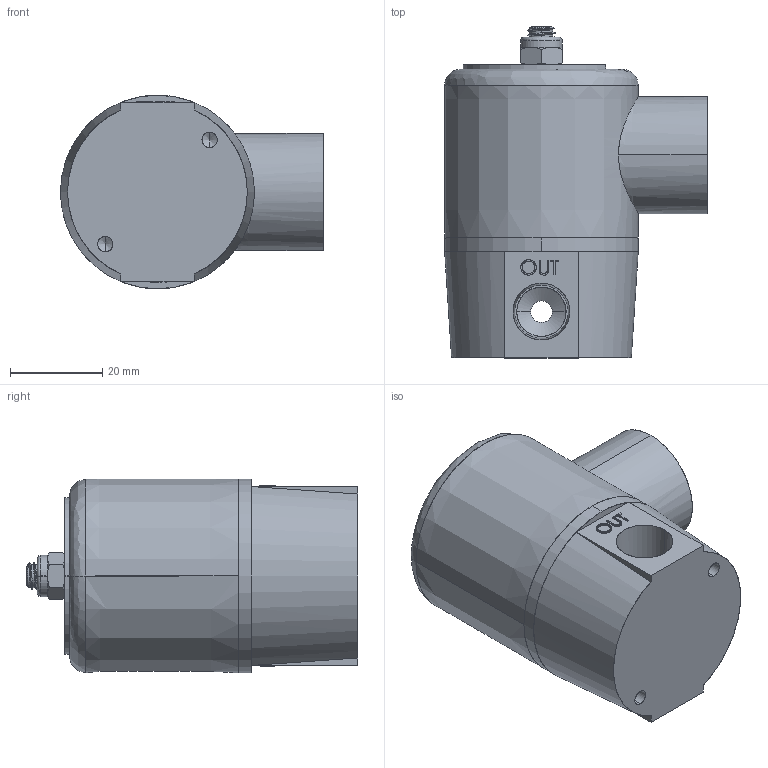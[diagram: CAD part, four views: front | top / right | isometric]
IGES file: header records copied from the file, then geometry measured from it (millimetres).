
Start section: SolidWorks IGES file using analytic representation for surfaces
Global section: file name: C:\Users\Toshiba\Desktop\SS2200-02-#.IGS; native system: SolidWorks 2014; preprocessor: SolidWorks 2014; author: Toshiba; date: 160126.085047; units: millimetre
Bounding box: 57 x 72 x 42 mm (x, y, z)
Surface area: 26149.4 mm2 (no closed solid volume)
Topology: 0 solids, 0 shells, 278 faces, 3826 edges, 3822 vertices
Faces by surface type: bspline 164, revolution 114
